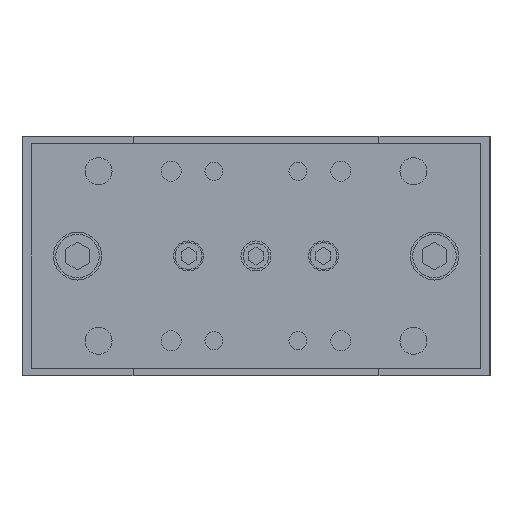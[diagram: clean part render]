
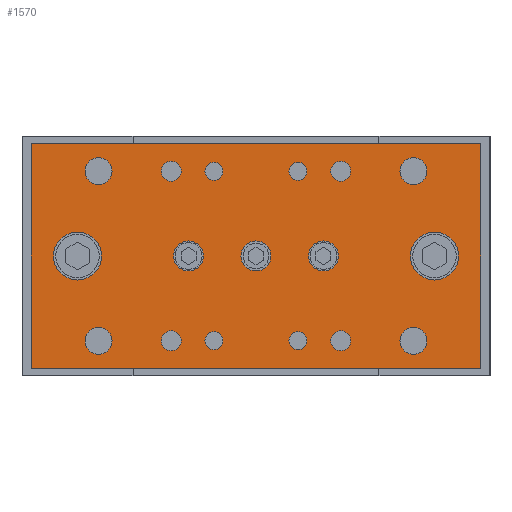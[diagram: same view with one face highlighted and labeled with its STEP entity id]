
A CAD part, front view. The second image highlights one B-rep face of the part: STEP entity #1570.
In plain terms, the highlighted planar face has unit normal (0, -1, 0).
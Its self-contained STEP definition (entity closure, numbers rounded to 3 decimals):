
#688=CARTESIAN_POINT('',(5.0,-94.0,0.));
#689=VERTEX_POINT('',#688);
#690=CARTESIAN_POINT('',(0.0,-94.0,0.0));
#691=DIRECTION('',(0.0,1.0,0.0));
#692=DIRECTION('',(-1.0,0.0,0.0));
#693=AXIS2_PLACEMENT_3D('',#690,#691,#692);
#694=CIRCLE('',#693,5.0);
#695=EDGE_CURVE('',#689,#689,#694,.T.);
#756=CARTESIAN_POINT('',(-17.5,-94.0,0.));
#757=VERTEX_POINT('',#756);
#758=CARTESIAN_POINT('',(-22.5,-94.0,0.0));
#759=DIRECTION('',(0.0,1.0,0.0));
#760=DIRECTION('',(-1.0,0.0,0.0));
#761=AXIS2_PLACEMENT_3D('',#758,#759,#760);
#762=CIRCLE('',#761,5.0);
#763=EDGE_CURVE('',#757,#757,#762,.T.);
#824=CARTESIAN_POINT('',(27.5,-94.0,0.));
#825=VERTEX_POINT('',#824);
#826=CARTESIAN_POINT('',(22.5,-94.0,0.0));
#827=DIRECTION('',(0.0,1.0,0.0));
#828=DIRECTION('',(-1.0,0.0,0.0));
#829=AXIS2_PLACEMENT_3D('',#826,#827,#828);
#830=CIRCLE('',#829,5.0);
#831=EDGE_CURVE('',#825,#825,#830,.T.);
#892=CARTESIAN_POINT('',(-51.5,-94.0,0.));
#893=VERTEX_POINT('',#892);
#894=CARTESIAN_POINT('',(-59.5,-94.0,0.0));
#895=DIRECTION('',(0.0,1.0,0.0));
#896=DIRECTION('',(-1.0,0.0,0.0));
#897=AXIS2_PLACEMENT_3D('',#894,#895,#896);
#898=CIRCLE('',#897,8.0);
#899=EDGE_CURVE('',#893,#893,#898,.T.);
#960=CARTESIAN_POINT('',(67.5,-94.0,0.));
#961=VERTEX_POINT('',#960);
#962=CARTESIAN_POINT('',(59.5,-94.0,0.0));
#963=DIRECTION('',(0.0,1.0,0.0));
#964=DIRECTION('',(-1.0,0.0,0.0));
#965=AXIS2_PLACEMENT_3D('',#962,#963,#964);
#966=CIRCLE('',#965,8.0);
#967=EDGE_CURVE('',#961,#961,#966,.T.);
#1384=CARTESIAN_POINT('',(75.0,-94.0,0.0));
#1385=DIRECTION('',(0.0,-1.0,0.0));
#1386=DIRECTION('',(0.0,0.0,-1.0));
#1387=AXIS2_PLACEMENT_3D('',#1384,#1385,#1386);
#1388=PLANE('',#1387);
#1389=CARTESIAN_POINT('',(75.0,-94.0,37.5));
#1390=VERTEX_POINT('',#1389);
#1391=CARTESIAN_POINT('',(-75.0,-94.0,37.5));
#1392=VERTEX_POINT('',#1391);
#1393=CARTESIAN_POINT('',(75.0,-94.0,37.5));
#1394=DIRECTION('',(-1.0,0.0,0.0));
#1395=VECTOR('',#1394,150.0);
#1396=LINE('',#1393,#1395);
#1397=EDGE_CURVE('',#1390,#1392,#1396,.T.);
#1398=ORIENTED_EDGE('',*,*,#1397,.T.);
#1399=CARTESIAN_POINT('',(-75.0,-94.0,-37.5));
#1400=VERTEX_POINT('',#1399);
#1401=CARTESIAN_POINT('',(-75.0,-94.0,37.5));
#1402=DIRECTION('',(0.0,0.0,-1.0));
#1403=VECTOR('',#1402,75.0);
#1404=LINE('',#1401,#1403);
#1405=EDGE_CURVE('',#1392,#1400,#1404,.T.);
#1406=ORIENTED_EDGE('',*,*,#1405,.T.);
#1407=CARTESIAN_POINT('',(75.0,-94.0,-37.5));
#1408=VERTEX_POINT('',#1407);
#1409=CARTESIAN_POINT('',(-75.0,-94.0,-37.5));
#1410=DIRECTION('',(1.0,0.0,0.0));
#1411=VECTOR('',#1410,150.0);
#1412=LINE('',#1409,#1411);
#1413=EDGE_CURVE('',#1400,#1408,#1412,.T.);
#1414=ORIENTED_EDGE('',*,*,#1413,.T.);
#1415=CARTESIAN_POINT('',(75.0,-94.0,-37.5));
#1416=DIRECTION('',(0.0,0.0,1.0));
#1417=VECTOR('',#1416,75.0);
#1418=LINE('',#1415,#1417);
#1419=EDGE_CURVE('',#1408,#1390,#1418,.T.);
#1420=ORIENTED_EDGE('',*,*,#1419,.T.);
#1421=EDGE_LOOP('',(#1398,#1406,#1414,#1420));
#1422=FACE_OUTER_BOUND('',#1421,.T.);
#1423=CARTESIAN_POINT('',(-11.,-94.0,28.25));
#1424=VERTEX_POINT('',#1423);
#1425=CARTESIAN_POINT('',(-14.,-94.0,28.25));
#1426=DIRECTION('',(0.0,1.0,0.0));
#1427=DIRECTION('',(1.0,0.0,0.0));
#1428=AXIS2_PLACEMENT_3D('',#1425,#1426,#1427);
#1429=CIRCLE('',#1428,3.);
#1430=EDGE_CURVE('',#1424,#1424,#1429,.T.);
#1431=ORIENTED_EDGE('',*,*,#1430,.T.);
#1432=EDGE_LOOP('',(#1431));
#1433=FACE_BOUND('',#1432,.T.);
#1434=CARTESIAN_POINT('',(17.,-94.0,28.25));
#1435=VERTEX_POINT('',#1434);
#1436=CARTESIAN_POINT('',(14.,-94.0,28.25));
#1437=DIRECTION('',(0.0,1.0,0.0));
#1438=DIRECTION('',(1.0,0.0,0.0));
#1439=AXIS2_PLACEMENT_3D('',#1436,#1437,#1438);
#1440=CIRCLE('',#1439,3.);
#1441=EDGE_CURVE('',#1435,#1435,#1440,.T.);
#1442=ORIENTED_EDGE('',*,*,#1441,.T.);
#1443=EDGE_LOOP('',(#1442));
#1444=FACE_BOUND('',#1443,.T.);
#1445=CARTESIAN_POINT('',(-11.,-94.0,-28.25));
#1446=VERTEX_POINT('',#1445);
#1447=CARTESIAN_POINT('',(-14.,-94.0,-28.25));
#1448=DIRECTION('',(0.0,1.0,0.0));
#1449=DIRECTION('',(1.0,0.0,0.0));
#1450=AXIS2_PLACEMENT_3D('',#1447,#1448,#1449);
#1451=CIRCLE('',#1450,3.);
#1452=EDGE_CURVE('',#1446,#1446,#1451,.T.);
#1453=ORIENTED_EDGE('',*,*,#1452,.T.);
#1454=EDGE_LOOP('',(#1453));
#1455=FACE_BOUND('',#1454,.T.);
#1456=CARTESIAN_POINT('',(17.,-94.0,-28.25));
#1457=VERTEX_POINT('',#1456);
#1458=CARTESIAN_POINT('',(14.,-94.0,-28.25));
#1459=DIRECTION('',(0.0,1.0,0.0));
#1460=DIRECTION('',(1.0,0.0,0.0));
#1461=AXIS2_PLACEMENT_3D('',#1458,#1459,#1460);
#1462=CIRCLE('',#1461,3.);
#1463=EDGE_CURVE('',#1457,#1457,#1462,.T.);
#1464=ORIENTED_EDGE('',*,*,#1463,.T.);
#1465=EDGE_LOOP('',(#1464));
#1466=FACE_BOUND('',#1465,.T.);
#1467=CARTESIAN_POINT('',(-24.927,-94.0,28.25));
#1468=VERTEX_POINT('',#1467);
#1469=CARTESIAN_POINT('',(-28.25,-94.0,28.25));
#1470=DIRECTION('',(0.0,1.0,0.0));
#1471=DIRECTION('',(1.0,0.0,0.0));
#1472=AXIS2_PLACEMENT_3D('',#1469,#1470,#1471);
#1473=CIRCLE('',#1472,3.324);
#1474=EDGE_CURVE('',#1468,#1468,#1473,.T.);
#1475=ORIENTED_EDGE('',*,*,#1474,.T.);
#1476=EDGE_LOOP('',(#1475));
#1477=FACE_BOUND('',#1476,.T.);
#1478=CARTESIAN_POINT('',(31.573,-94.0,28.25));
#1479=VERTEX_POINT('',#1478);
#1480=CARTESIAN_POINT('',(28.25,-94.0,28.25));
#1481=DIRECTION('',(0.0,1.0,0.0));
#1482=DIRECTION('',(1.0,0.0,0.0));
#1483=AXIS2_PLACEMENT_3D('',#1480,#1481,#1482);
#1484=CIRCLE('',#1483,3.324);
#1485=EDGE_CURVE('',#1479,#1479,#1484,.T.);
#1486=ORIENTED_EDGE('',*,*,#1485,.T.);
#1487=EDGE_LOOP('',(#1486));
#1488=FACE_BOUND('',#1487,.T.);
#1489=CARTESIAN_POINT('',(-24.927,-94.0,-28.25));
#1490=VERTEX_POINT('',#1489);
#1491=CARTESIAN_POINT('',(-28.25,-94.0,-28.25));
#1492=DIRECTION('',(0.0,1.0,0.0));
#1493=DIRECTION('',(1.0,0.0,0.0));
#1494=AXIS2_PLACEMENT_3D('',#1491,#1492,#1493);
#1495=CIRCLE('',#1494,3.324);
#1496=EDGE_CURVE('',#1490,#1490,#1495,.T.);
#1497=ORIENTED_EDGE('',*,*,#1496,.T.);
#1498=EDGE_LOOP('',(#1497));
#1499=FACE_BOUND('',#1498,.T.);
#1500=CARTESIAN_POINT('',(31.573,-94.0,-28.25));
#1501=VERTEX_POINT('',#1500);
#1502=CARTESIAN_POINT('',(28.25,-94.0,-28.25));
#1503=DIRECTION('',(0.0,1.0,0.0));
#1504=DIRECTION('',(1.0,0.0,0.0));
#1505=AXIS2_PLACEMENT_3D('',#1502,#1503,#1504);
#1506=CIRCLE('',#1505,3.324);
#1507=EDGE_CURVE('',#1501,#1501,#1506,.T.);
#1508=ORIENTED_EDGE('',*,*,#1507,.T.);
#1509=EDGE_LOOP('',(#1508));
#1510=FACE_BOUND('',#1509,.T.);
#1511=CARTESIAN_POINT('',(48.,-94.,-28.25));
#1512=VERTEX_POINT('',#1511);
#1513=CARTESIAN_POINT('',(52.5,-94.,-28.25));
#1514=DIRECTION('',(0.0,1.0,0.0));
#1515=DIRECTION('',(1.0,0.0,0.0));
#1516=AXIS2_PLACEMENT_3D('',#1513,#1514,#1515);
#1517=CIRCLE('',#1516,4.5);
#1518=EDGE_CURVE('',#1512,#1512,#1517,.T.);
#1519=ORIENTED_EDGE('',*,*,#1518,.T.);
#1520=EDGE_LOOP('',(#1519));
#1521=FACE_BOUND('',#1520,.T.);
#1522=CARTESIAN_POINT('',(-57.,-94.,-28.25));
#1523=VERTEX_POINT('',#1522);
#1524=CARTESIAN_POINT('',(-52.5,-94.,-28.25));
#1525=DIRECTION('',(0.0,1.0,0.0));
#1526=DIRECTION('',(1.0,0.0,0.0));
#1527=AXIS2_PLACEMENT_3D('',#1524,#1525,#1526);
#1528=CIRCLE('',#1527,4.5);
#1529=EDGE_CURVE('',#1523,#1523,#1528,.T.);
#1530=ORIENTED_EDGE('',*,*,#1529,.T.);
#1531=EDGE_LOOP('',(#1530));
#1532=FACE_BOUND('',#1531,.T.);
#1533=CARTESIAN_POINT('',(48.,-94.,28.25));
#1534=VERTEX_POINT('',#1533);
#1535=CARTESIAN_POINT('',(52.5,-94.,28.25));
#1536=DIRECTION('',(0.0,1.0,0.0));
#1537=DIRECTION('',(1.0,0.0,0.0));
#1538=AXIS2_PLACEMENT_3D('',#1535,#1536,#1537);
#1539=CIRCLE('',#1538,4.5);
#1540=EDGE_CURVE('',#1534,#1534,#1539,.T.);
#1541=ORIENTED_EDGE('',*,*,#1540,.T.);
#1542=EDGE_LOOP('',(#1541));
#1543=FACE_BOUND('',#1542,.T.);
#1544=CARTESIAN_POINT('',(-57.,-94.,28.25));
#1545=VERTEX_POINT('',#1544);
#1546=CARTESIAN_POINT('',(-52.5,-94.,28.25));
#1547=DIRECTION('',(0.0,1.0,0.0));
#1548=DIRECTION('',(1.0,0.0,0.0));
#1549=AXIS2_PLACEMENT_3D('',#1546,#1547,#1548);
#1550=CIRCLE('',#1549,4.5);
#1551=EDGE_CURVE('',#1545,#1545,#1550,.T.);
#1552=ORIENTED_EDGE('',*,*,#1551,.T.);
#1553=EDGE_LOOP('',(#1552));
#1554=FACE_BOUND('',#1553,.T.);
#1555=ORIENTED_EDGE('',*,*,#967,.T.);
#1556=EDGE_LOOP('',(#1555));
#1557=FACE_BOUND('',#1556,.T.);
#1558=ORIENTED_EDGE('',*,*,#899,.T.);
#1559=EDGE_LOOP('',(#1558));
#1560=FACE_BOUND('',#1559,.T.);
#1561=ORIENTED_EDGE('',*,*,#831,.T.);
#1562=EDGE_LOOP('',(#1561));
#1563=FACE_BOUND('',#1562,.T.);
#1564=ORIENTED_EDGE('',*,*,#763,.T.);
#1565=EDGE_LOOP('',(#1564));
#1566=FACE_BOUND('',#1565,.T.);
#1567=ORIENTED_EDGE('',*,*,#695,.T.);
#1568=EDGE_LOOP('',(#1567));
#1569=FACE_BOUND('',#1568,.T.);
#1570=ADVANCED_FACE('',(#1422,#1433,#1444,#1455,#1466,#1477,#1488,#1499,#1510,#1521,#1532,#1543,#1554,#1557,#1560,#1563,#1566,#1569),#1388,.T.);
